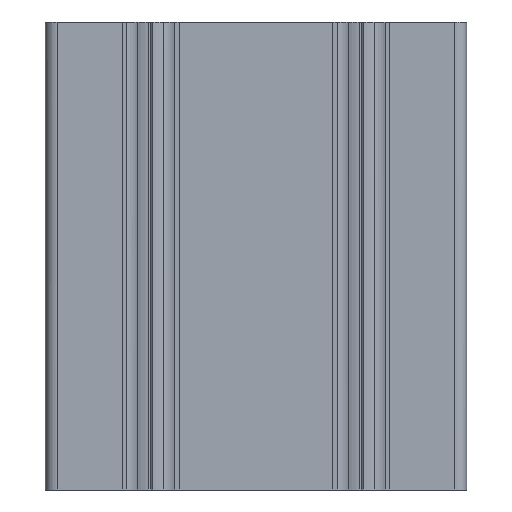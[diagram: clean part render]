
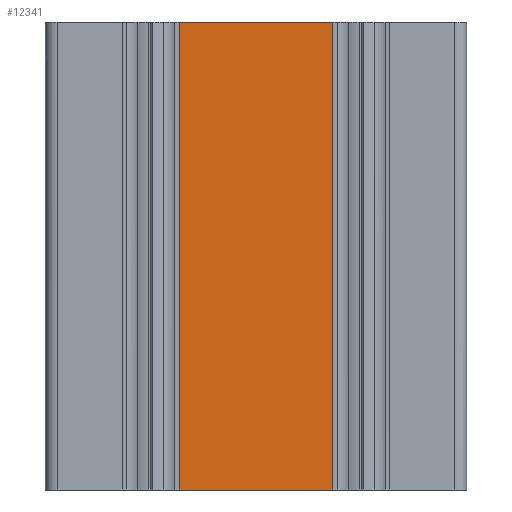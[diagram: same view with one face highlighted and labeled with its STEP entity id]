
A CAD part, front view. The second image highlights one B-rep face of the part: STEP entity #12341.
In plain terms, the highlighted free-form (B-spline) face has degree [1, 1] with [2, 2] control points.
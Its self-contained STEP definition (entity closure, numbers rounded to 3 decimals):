
#1621 = CARTESIAN_POINT ( 'NONE',  ( 3706.076, 1699.404, 100. ) ) ;
#1643 = VERTEX_POINT ( 'NONE', #1621 ) ;
#2149 = CARTESIAN_POINT ( 'NONE',  ( 3706.076, 1699.404, 0. ) ) ;
#2154 = EDGE_CURVE ( 'NONE', #14711, #1643, #6005, .T. ) ;
#2783 = CARTESIAN_POINT ( 'NONE',  ( 3706.076, 1699.404, 100. ) ) ;
#2882 = CARTESIAN_POINT ( 'NONE',  ( 3706.076, 1699.404, 0. ) ) ;
#2996 = ORIENTED_EDGE ( 'NONE', *, *, #2154, .F. ) ;
#3336 = CARTESIAN_POINT ( 'NONE',  ( 3673.276, 1699.404, 100. ) ) ;
#3693 = B_SPLINE_CURVE_WITH_KNOTS ( 'NONE', 1,
 ( #12744, #6671 ),
 .UNSPECIFIED., .F., .F.,
 ( 2, 2 ),
 ( 0., 1. ),
 .UNSPECIFIED. ) ;
#4346 = EDGE_CURVE ( 'NONE', #1643, #8202, #11309, .T. ) ;
#4808 = FACE_OUTER_BOUND ( 'NONE', #13669, .T. ) ;
#5958 = VERTEX_POINT ( 'NONE', #10042 ) ;
#6005 = B_SPLINE_CURVE_WITH_KNOTS ( 'NONE', 1,
 ( #8666, #2783 ),
 .UNSPECIFIED., .F., .F.,
 ( 2, 2 ),
 ( 0., 1. ),
 .UNSPECIFIED. ) ;
#6671 = CARTESIAN_POINT ( 'NONE',  ( 3706.076, 1699.404, 0. ) ) ;
#7216 = ORIENTED_EDGE ( 'NONE', *, *, #9281, .F. ) ;
#8202 = VERTEX_POINT ( 'NONE', #10472 ) ;
#8383 = CARTESIAN_POINT ( 'NONE',  ( 3673.276, 1699.404, 100. ) ) ;
#8666 = CARTESIAN_POINT ( 'NONE',  ( 3673.276, 1699.404, 100. ) ) ;
#9247 = CARTESIAN_POINT ( 'NONE',  ( 3673.276, 1699.404, 0. ) ) ;
#9281 = EDGE_CURVE ( 'NONE', #5958, #14711, #12990, .T. ) ;
#10042 = CARTESIAN_POINT ( 'NONE',  ( 3673.276, 1699.404, 0. ) ) ;
#10472 = CARTESIAN_POINT ( 'NONE',  ( 3706.076, 1699.404, 0. ) ) ;
#11132 = CARTESIAN_POINT ( 'NONE',  ( 3706.076, 1699.404, 100. ) ) ;
#11309 = B_SPLINE_CURVE_WITH_KNOTS ( 'NONE', 1,
 ( #11132, #2882 ),
 .UNSPECIFIED., .F., .F.,
 ( 2, 2 ),
 ( 0., 1. ),
 .UNSPECIFIED. ) ;
#11516 = CARTESIAN_POINT ( 'NONE',  ( 3673.276, 1699.404, 0. ) ) ;
#12341 = ADVANCED_FACE ( 'NONE', ( #4808 ), #13271, .F. ) ;
#12744 = CARTESIAN_POINT ( 'NONE',  ( 3673.276, 1699.404, 0. ) ) ;
#12790 = ORIENTED_EDGE ( 'NONE', *, *, #13746, .T. ) ;
#12862 = CARTESIAN_POINT ( 'NONE',  ( 3706.076, 1699.404, 100. ) ) ;
#12990 = B_SPLINE_CURVE_WITH_KNOTS ( 'NONE', 1,
 ( #11516, #14974 ),
 .UNSPECIFIED., .F., .F.,
 ( 2, 2 ),
 ( 0., 1. ),
 .UNSPECIFIED. ) ;
#13271 = B_SPLINE_SURFACE_WITH_KNOTS ( 'NONE', 1, 1, ( 
 ( #9247, #2149 ),
 ( #3336, #12862 ) ),
 .UNSPECIFIED., .F., .F., .F.,
 ( 2, 2 ),
 ( 2, 2 ),
 ( 0., 1. ),
 ( 0., 1. ),
 .UNSPECIFIED. ) ;
#13669 = EDGE_LOOP ( 'NONE', ( #14643, #2996, #7216, #12790 ) ) ;
#13746 = EDGE_CURVE ( 'NONE', #5958, #8202, #3693, .T. ) ;
#14643 = ORIENTED_EDGE ( 'NONE', *, *, #4346, .F. ) ;
#14711 = VERTEX_POINT ( 'NONE', #8383 ) ;
#14974 = CARTESIAN_POINT ( 'NONE',  ( 3673.276, 1699.404, 100. ) ) ;
